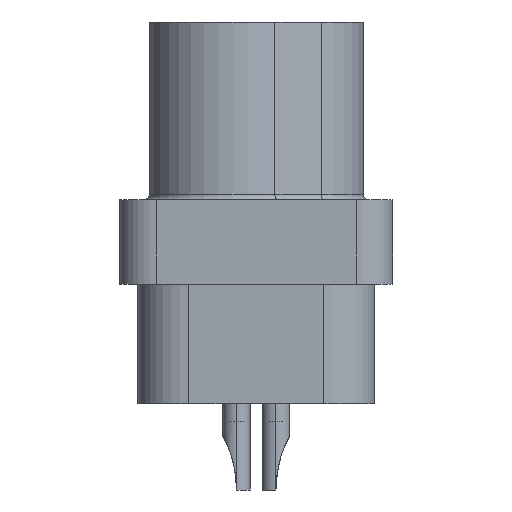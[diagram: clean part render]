
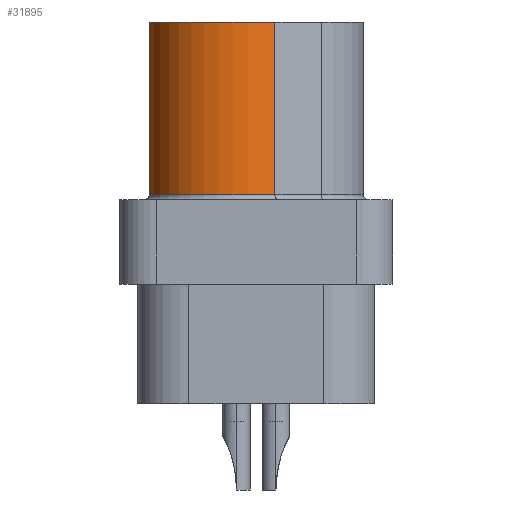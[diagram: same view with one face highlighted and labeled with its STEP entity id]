
A CAD part, left-side view. The second image highlights one B-rep face of the part: STEP entity #31895.
In plain terms, the highlighted cylindrical face has radius 2.339 mm (diameter 4.679 mm), a partial arc.
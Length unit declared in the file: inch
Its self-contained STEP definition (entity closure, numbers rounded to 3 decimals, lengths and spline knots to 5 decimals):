
#5467 = AXIS2_PLACEMENT_3D ( 'NONE', #22293, #22288, #22290 ) ;
#10631 = ORIENTED_EDGE ( 'NONE', *, *, #12898, .T. ) ;
#10634 = ORIENTED_EDGE ( 'NONE', *, *, #12901, .T. ) ;
#10639 = ORIENTED_EDGE ( 'NONE', *, *, #12903, .F. ) ;
#10644 = ORIENTED_EDGE ( 'NONE', *, *, #12875, .T. ) ;
#12875 = EDGE_CURVE ( 'NONE', #14695, #14709, #24386, .T. ) ;
#12898 = EDGE_CURVE ( 'NONE', #14709, #14707, #24258, .T. ) ;
#12901 = EDGE_CURVE ( 'NONE', #14707, #14719, #24613, .T. ) ;
#12903 = EDGE_CURVE ( 'NONE', #14695, #14719, #24832, .T. ) ;
#14695 = VERTEX_POINT ( 'NONE', #32513 ) ;
#14707 = VERTEX_POINT ( 'NONE', #32502 ) ;
#14709 = VERTEX_POINT ( 'NONE', #32504 ) ;
#14719 = VERTEX_POINT ( 'NONE', #32499 ) ;
#15534 = EDGE_LOOP ( 'NONE', ( #10631, #10634, #10639, #10644 ) ) ;
#22288 = DIRECTION ( 'NONE',  ( 0., 0., -1. ) ) ;
#22290 = DIRECTION ( 'NONE',  ( 1., 0., 0. ) ) ;
#22293 = CARTESIAN_POINT ( 'NONE',  ( -0.3, 0.0255, 0.235 ) ) ;
#23044 = FACE_OUTER_BOUND ( 'NONE', #15534, .T. ) ;
#23048 = CYLINDRICAL_SURFACE ( 'NONE', #5467, 0.0921 ) ;
#23784 = DIRECTION ( 'NONE',  ( 0., 0., -1. ) ) ;
#23790 = CARTESIAN_POINT ( 'NONE',  ( -0.37976, -0.02055, 0.235 ) ) ;
#23811 = CARTESIAN_POINT ( 'NONE',  ( -0.3, 0.1176, 0.235 ) ) ;
#23815 = DIRECTION ( 'NONE',  ( 0., 0., -1. ) ) ;
#23836 = CARTESIAN_POINT ( 'NONE',  ( -0.3, 0.0255, 0.045 ) ) ;
#23866 = CARTESIAN_POINT ( 'NONE',  ( -0.3, 0.0255, 0.235 ) ) ;
#23873 = DIRECTION ( 'NONE',  ( 1., 0., 0. ) ) ;
#23893 = DIRECTION ( 'NONE',  ( 0., 0., -1. ) ) ;
#23912 = DIRECTION ( 'NONE',  ( 0., 0., 1. ) ) ;
#23928 = DIRECTION ( 'NONE',  ( 1., 0., 0. ) ) ;
#24258 = LINE ( 'NONE', #23811, #24615 ) ;
#24386 = CIRCLE ( 'NONE', #31346, 0.0921 ) ;
#24613 = CIRCLE ( 'NONE', #31348, 0.0921 ) ;
#24615 = VECTOR ( 'NONE', #23815, 39.37008 ) ;
#24832 = LINE ( 'NONE', #23790, #24951 ) ;
#24951 = VECTOR ( 'NONE', #23893, 39.37008 ) ;
#31346 = AXIS2_PLACEMENT_3D ( 'NONE', #23866, #23784, #23873 ) ;
#31348 = AXIS2_PLACEMENT_3D ( 'NONE', #23836, #23912, #23928 ) ;
#31895 = ADVANCED_FACE ( 'NONE', ( #23044 ), #23048, .T. ) ;
#32499 = CARTESIAN_POINT ( 'NONE',  ( -0.37976, -0.02055, 0.045 ) ) ;
#32502 = CARTESIAN_POINT ( 'NONE',  ( -0.3, 0.1176, 0.045 ) ) ;
#32504 = CARTESIAN_POINT ( 'NONE',  ( -0.3, 0.1176, 0.235 ) ) ;
#32513 = CARTESIAN_POINT ( 'NONE',  ( -0.37976, -0.02055, 0.235 ) ) ;
